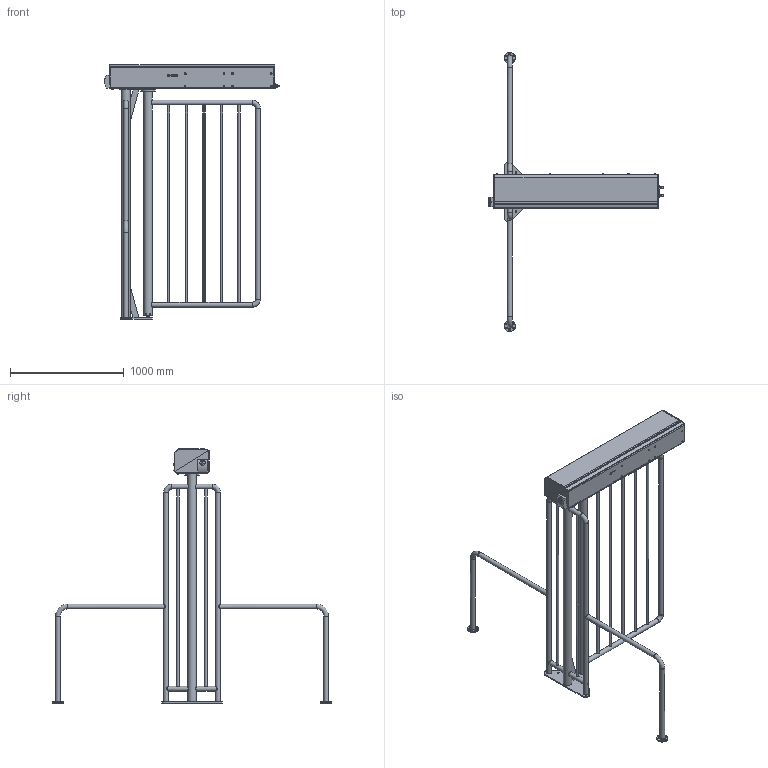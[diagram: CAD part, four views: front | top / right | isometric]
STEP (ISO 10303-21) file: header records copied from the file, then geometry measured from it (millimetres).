
FILE_DESCRIPTION(/* description */ ('KPW JC004 closed'),/* implementation_level */ '2;1');
FILE_NAME(/* name */ 'MPG-162C-A104',/* time_stamp */ '2021-02-25T14:21:57+01:00',/* author */ ('Unknown'),/* organization */ ('Unknown'),/* preprocessor_version */ 'ST-DEVELOPER v16.7',/* originating_system */ 'DEX',/* authorisation */ $);
FILE_SCHEMA (('AUTOMOTIVE_DESIGN {1 0 10303 214 3 1 1}'));
Products named in the file (82): MPG-162C-A104; 20595123; 20595123a; 20595123d; 20595123b; 20595123c; 20595723; 20645047; 20525114; 20575134; 20645046; 20575043; 20585030; 20645049; 20505058; 20525058; 20595131; 20525116; 20645025; 20575033; 10085042; 20295118; 20295118a_oa_0; 20295118b; Einpress-Gewindebolzen-M4x12; 20435304; 20435304a; gewindeschweissbolzen_m4x12; Schweißbolzen_D5x8; 34680028; 34680028a; 20580026; 34680028c; 34680028b; 34680028d; 32425001; 31475003; 35000014; 34840075; 30980030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
Assembly tree (177 placements, depth 4):
  MPG-162C-A104
    20595123
      20595123a
      20595123d
      20595123b
      20595123c
    20595723
      20645047
      20525114
      20575134  x2
      20645046
      20575043  x2
      20585030  x2
      20645049  x2
      20505058  x2
      20525058  x2
    20595131
      20525116
      20645025
      20525058  x5
      20575033
    10085042
      20295118
        20295118a_oa_0
        20295118b
        Einpress-Gewindebolzen-M4x12
      20435304
        20435304a
        gewindeschweissbolzen_m4x12
        Schweißbolzen_D5x8  x2
      34680028
        34680028a
        20580026
        34680028c
        34680028b
        34680028d
      32425001  x2
      31475003
      35000014  x4
      34840075  x4
      30980030  x4
      20180332
        20180332a
      33300014  x2
      34950006  x2
      20186013
      34980023  x2
      33060012  x4
      34980004  x4
    20625007
    20175026
    35005006
    30985000
    34855018
    31475004  x2
    20325021
    34950006
    34850043  x2
    33075000  x5
    30195008  x6
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Bounding box: 1537.3 x 2457.6 x 2234.99 mm (x, y, z)
Volume: 18607383 mm3; surface area: 10386401.7 mm2
Topology: 177 solids, 178 shells, 4469 faces, 10639 edges, 6661 vertices
Faces by surface type: plane 2416, cylinder 1341, cone 599, torus 56, bspline 50, sphere 7
Full cylindrical faces by diameter (mm): 0.1 x11, 1 x7, 1.7 x2, 3 x5, 3.3 x6, 4 x10, 4.019 x4, 4.02 x8, 4.2 x27, 4.3 x4, 4.5 x3, 5 x29, 5.3 x23, 5.5 x2, 5.9 x1, 6 x2, 6.4 x3, 6.5 x1, 6.8 x3, 7 x2, 8 x22, 8.376 x2, 8.5 x12, 9 x4, 10 x17, 10.106 x5, 10.156 x5, 10.2 x5, 10.25 x2, 10.5 x2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
Entity records: 60970 total; most frequent: CARTESIAN_POINT 12912, DIRECTION 9158, ORIENTED_EDGE 8418, EDGE_CURVE 4209, AXIS2_PLACEMENT_3D 3311, VERTEX_POINT 2845, LINE 2536, VECTOR 2536
